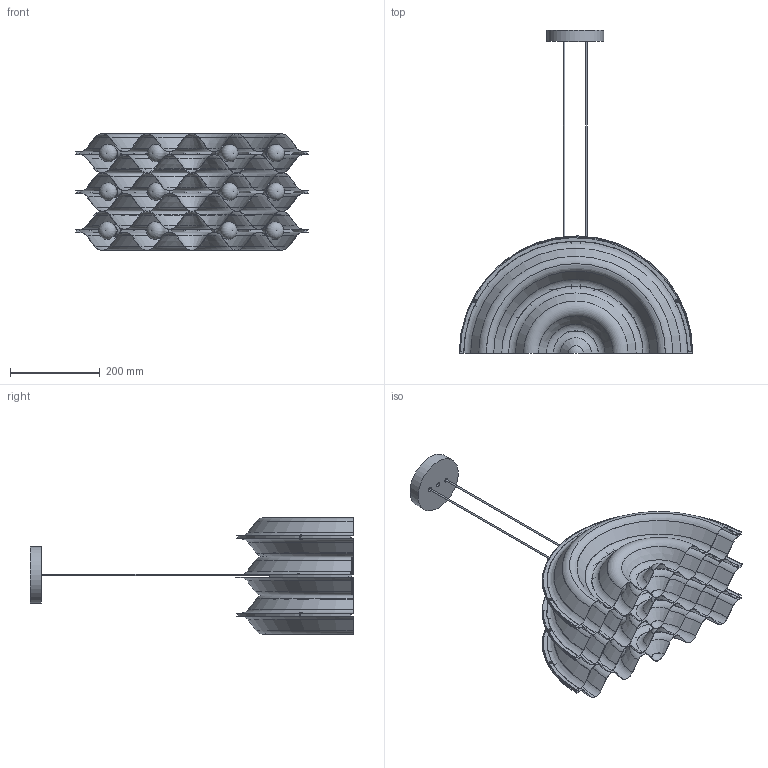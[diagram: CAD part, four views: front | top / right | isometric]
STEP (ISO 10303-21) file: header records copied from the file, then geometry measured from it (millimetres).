
FILE_DESCRIPTION(/* description */ (''),/* implementation_level */ '2;1');
FILE_NAME(/* name */ 'DOTR simplifi v5.step',/* time_stamp */ '2024-11-01T15:53:34-04:00',/* author */ (''),/* organization */ (''),/* preprocessor_version */ 'ST-DEVELOPER v20',/* originating_system */ 'Autodesk Translation Framework v13.20.0.188',/* authorisation */ '');
FILE_SCHEMA (('AUTOMOTIVE_DESIGN { 1 0 10303 214 3 1 1 }'));
Length unit declared in the file: millimetre
Products named in the file (22): DOTR simplifié; COQUE 1; 380-801; 380-801 (1); Doppler_Bracket_Open; Doppler_Coque; BAFL05STNW; COQUE 2; COQUE 2_1; Doppler_Bracket_Close; Doppler_Coque_Trouée; Doppler_Coque_1; 91770A144_Extra-Wide Truss Head Phillips Screws v1; 91770A144_Extra-Wide Truss Head Phillips Screws v1 (1); 192-007; Ampoule; Ampoule_1; Ampoule_2; Doppler_Ampoule v3; Doppler_Ampoule v3 (1); Doppler_Ampoule v3 (2); Doppler_Ampoule v3 (3)
Assembly tree (40 placements, depth 3):
  DOTR simplifié
    COQUE 1
      380-801
      380-801 (1)
      Doppler_Coque  x2
      Doppler_Bracket_Open
      192-007  x2
    BAFL05STNW
    COQUE 2
      Doppler_Bracket_Close
      Doppler_Coque_Trouée
      Doppler_Coque_1
      91770A144_Extra-Wide Truss Head Phillips Screws v1
      91770A144_Extra-Wide Truss Head Phillips Screws v1 (1)
      192-007  x2
    COQUE 2_1
      Doppler_Bracket_Close
      Doppler_Coque_Trouée
      Doppler_Coque_1
      91770A144_Extra-Wide Truss Head Phillips Screws v1
      91770A144_Extra-Wide Truss Head Phillips Screws v1 (1)
      192-007  x2
    Ampoule
      Doppler_Ampoule v3
      Doppler_Ampoule v3 (1)
      Doppler_Ampoule v3 (2)
      Doppler_Ampoule v3 (3)
    Ampoule_1
      Doppler_Ampoule v3
      Doppler_Ampoule v3 (1)
      Doppler_Ampoule v3 (2)
      Doppler_Ampoule v3 (3)
    Ampoule_2
      Doppler_Ampoule v3
      Doppler_Ampoule v3 (1)
      Doppler_Ampoule v3 (2)
      Doppler_Ampoule v3 (3)
Bounding box: 520.96 x 722.63 x 260.45 mm (x, y, z)
Volume: 1823991.1 mm3; surface area: 2057667 mm2
Topology: 48 solids, 48 shells, 1285 faces, 3432 edges, 2250 vertices
Faces by surface type: cylinder 407, plane 308, cone 240, bspline 216, torus 96, sphere 18
Full cylindrical faces by diameter (mm): 2.474 x42, 3.175 x6, 3.5 x5, 3.505 x36, 3.575 x6, 5.029 x6, 5.2 x24, 6.35 x6, 9.525 x3, 25.85 x12, 117.833 x1, 127 x1
Entity records: 40349 total; most frequent: CARTESIAN_POINT 20311, ORIENTED_EDGE 4206, DIRECTION 4083, EDGE_CURVE 2103, AXIS2_PLACEMENT_3D 1630, VERTEX_POINT 1384, EDGE_LOOP 831, LINE 823
